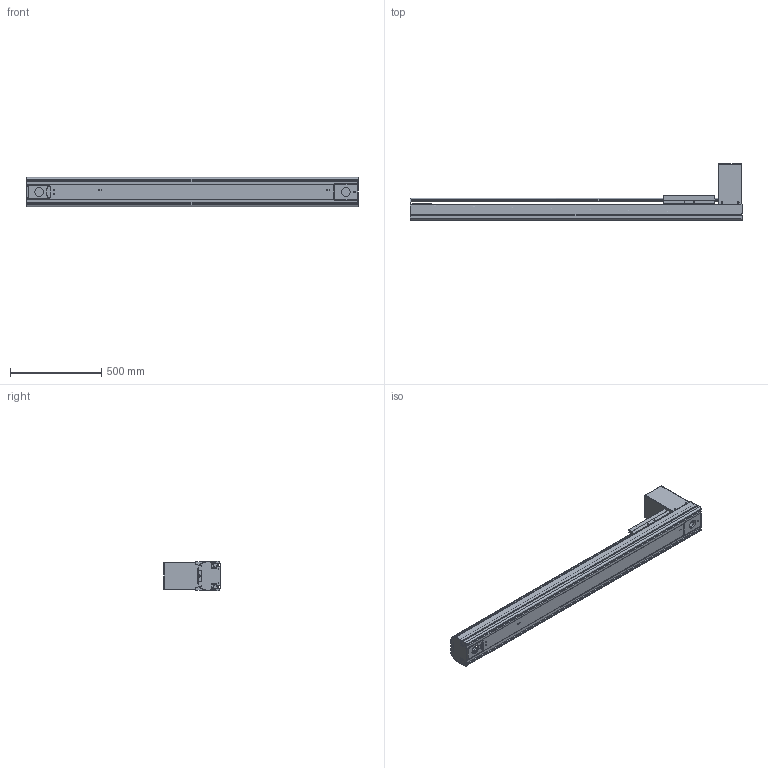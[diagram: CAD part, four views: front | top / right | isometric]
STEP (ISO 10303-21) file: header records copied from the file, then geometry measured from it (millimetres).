
FILE_DESCRIPTION((''),'2;1');
FILE_NAME('BE50G-BT-L19N-C5_IGS_PRT','2017-06-18T',(' '),(''),'PRO/ENGINEER BY PARAMETRIC TECHNOLOGY CORPORATION, 2015030','PRO/ENGINEER BY PARAMETRIC TECHNOLOGY CORPORATION, 2015030','');
FILE_SCHEMA(('CONFIG_CONTROL_DESIGN'));
Products named in the file (1): BE50G-BT-L19N-C5_IGS_PRT
Bounding box: 1820 x 309 x 160 mm (x, y, z)
Volume: 8324123.5 mm3; surface area: 3375929.2 mm2
Topology: 3 solids, 147 shells, 1946 faces, 5501 edges, 3655 vertices
Faces by surface type: cylinder 977, plane 784, cone 142, sphere 23, torus 20
Entity records: 65835 total; most frequent: CARTESIAN_POINT 14725, DIRECTION 10709, ORIENTED_EDGE 10282, EDGE_CURVE 5427, AXIS2_PLACEMENT_3D 4000, VERTEX_POINT 3655, VECTOR 2709, LINE 2709
